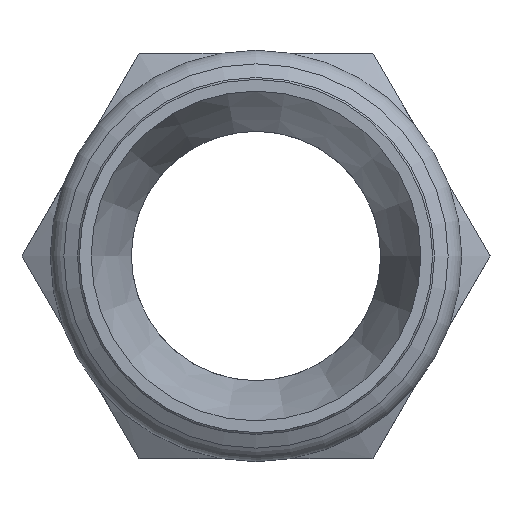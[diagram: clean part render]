
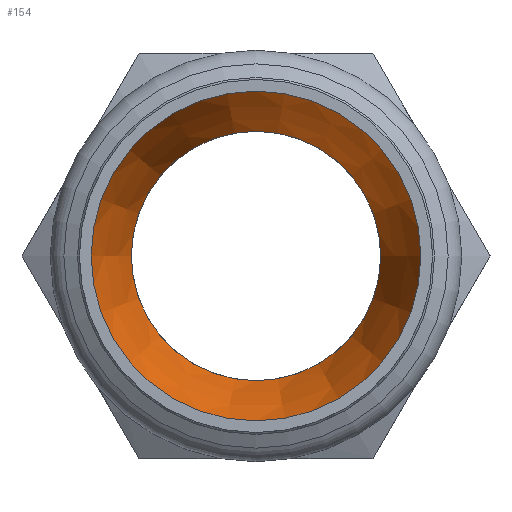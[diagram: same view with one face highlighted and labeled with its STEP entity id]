
A CAD part, left-side view. The second image highlights one B-rep face of the part: STEP entity #154.
In plain terms, the highlighted conical face has half-angle 20 degrees and reference radius 18.666 mm.
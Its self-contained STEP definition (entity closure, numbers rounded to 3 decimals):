
#123=CARTESIAN_POINT('',(-19.85,-16.,0.));
#124=VERTEX_POINT('',#123);
#125=CARTESIAN_POINT('',(-19.85,0.,0.0));
#126=DIRECTION('',(1.0,0.0,0.0));
#127=DIRECTION('',(0.0,1.0,0.0));
#128=AXIS2_PLACEMENT_3D('',#125,#126,#127);
#129=CIRCLE('',#128,16.);
#130=EDGE_CURVE('',#124,#124,#129,.T.);
#135=CARTESIAN_POINT('',(-27.174,0.,0.0));
#136=DIRECTION('',(-1.0,0.,0.0));
#137=DIRECTION('',(0.0,1.0,0.0));
#138=AXIS2_PLACEMENT_3D('',#135,#136,#137);
#139=CONICAL_SURFACE('',#138,18.665,20.);
#140=ORIENTED_EDGE('',*,*,#130,.T.);
#141=EDGE_LOOP('',(#140));
#142=FACE_OUTER_BOUND('',#141,.T.);
#143=CARTESIAN_POINT('',(-34.,-21.15,0.));
#144=VERTEX_POINT('',#143);
#145=CARTESIAN_POINT('',(-34.,0.,0.0));
#146=DIRECTION('',(-1.0,0.0,0.0));
#147=DIRECTION('',(0.0,1.0,0.0));
#148=AXIS2_PLACEMENT_3D('',#145,#146,#147);
#149=CIRCLE('',#148,21.15);
#150=EDGE_CURVE('',#144,#144,#149,.F.);
#151=ORIENTED_EDGE('',*,*,#150,.F.);
#152=EDGE_LOOP('',(#151));
#153=FACE_BOUND('',#152,.T.);
#154=ADVANCED_FACE('',(#142,#153),#139,.F.);
